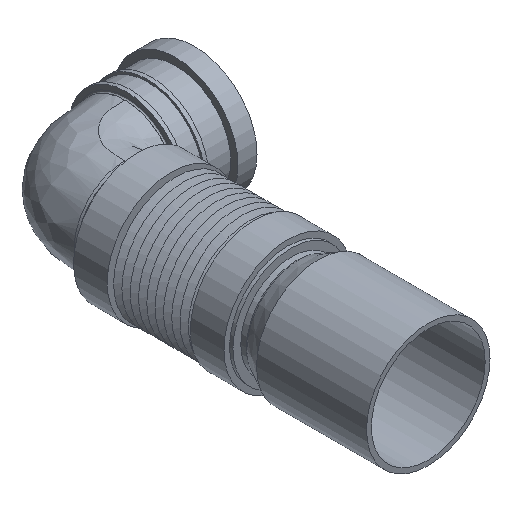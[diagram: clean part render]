
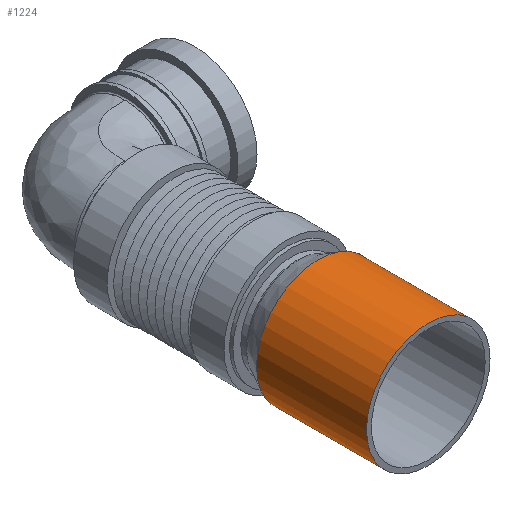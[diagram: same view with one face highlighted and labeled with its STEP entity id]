
A CAD part, isometric view. The second image highlights one B-rep face of the part: STEP entity #1224.
In plain terms, the highlighted cylindrical face has radius 55 mm (diameter 110 mm), a full revolution.
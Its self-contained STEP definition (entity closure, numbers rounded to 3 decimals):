
#141=CYLINDRICAL_SURFACE($,#1402,55.);
#237=FACE_BOUND($,#508,.T.);
#327=FACE_OUTER_BOUND($,#507,.T.);
#507=EDGE_LOOP($,(#1024));
#508=EDGE_LOOP($,(#1025));
#586=CIRCLE($,#1400,55.);
#588=CIRCLE($,#1403,55.);
#677=VERTEX_POINT($,#2955);
#679=VERTEX_POINT($,#2960);
#784=EDGE_CURVE($,#677,#677,#586,.T.);
#786=EDGE_CURVE($,#679,#679,#588,.T.);
#1024=ORIENTED_EDGE($,*,*,#784,.T.);
#1025=ORIENTED_EDGE($,*,*,#786,.F.);
#1224=ADVANCED_FACE($,(#327,#237),#141,.T.);
#1400=AXIS2_PLACEMENT_3D($,#2956,#1734,#1735);
#1402=AXIS2_PLACEMENT_3D($,#2959,#1738,#1739);
#1403=AXIS2_PLACEMENT_3D($,#2961,#1740,#1741);
#1734=DIRECTION('center_axis',(0.,0.,-1.));
#1735=DIRECTION('ref_axis',(-1.,0.,0.));
#1738=DIRECTION('center_axis',(0.,0.,1.));
#1739=DIRECTION('ref_axis',(-1.,0.,0.));
#1740=DIRECTION('center_axis',(0.,0.,-1.));
#1741=DIRECTION('ref_axis',(-1.,0.,0.));
#2955=CARTESIAN_POINT('',(55.,0.,98.));
#2956=CARTESIAN_POINT('Origin',(0.,0.,98.));
#2959=CARTESIAN_POINT('Origin',(0.,0.,0.));
#2960=CARTESIAN_POINT('',(55.,0.,0.));
#2961=CARTESIAN_POINT('Origin',(0.,0.,0.));
